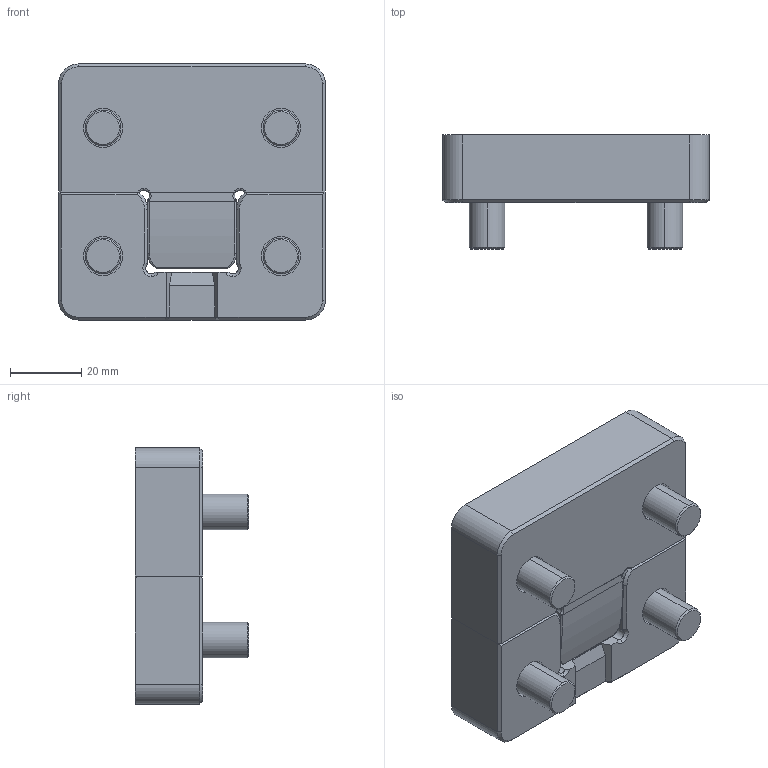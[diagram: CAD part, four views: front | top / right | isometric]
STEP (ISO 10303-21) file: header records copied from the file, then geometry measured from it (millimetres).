
FILE_DESCRIPTION (( 'STEP AP214' ), '1' );
FILE_NAME ('SLM19X75Z.STEP', '2012-06-04T13:55:50', ( 'Progressive Components' ), ( 'Progressive Components' ), 'SwSTEP 2.0', 'SolidWorks 2010', '' );
FILE_SCHEMA (( 'AUTOMOTIVE_DESIGN' ));
Length unit declared in the file: millimetre
Products named in the file (4): SLM19X75Z MALE; SLM19X75Z FEMALE; M10_X_20_SHCS; SLM19X75Z
Assembly tree (6 placements, depth 2):
  SLM19X75Z
    M10_X_20_SHCS  x4
    SLM19X75Z MALE
    SLM19X75Z FEMALE
Bounding box: 75 x 32 x 72 mm (x, y, z)
Volume: 98478.1 mm3; surface area: 29867.6 mm2
Topology: 6 solids, 6 shells, 367 faces, 793 edges, 506 vertices
Faces by surface type: cylinder 167, plane 146, cone 38, torus 14, bspline 2
Entity records: 9027 total; most frequent: CARTESIAN_POINT 1865, DIRECTION 1597, ORIENTED_EDGE 1334, EDGE_CURVE 667, AXIS2_PLACEMENT_3D 654, VERTEX_POINT 428, EDGE_LOOP 377, CIRCLE 340
